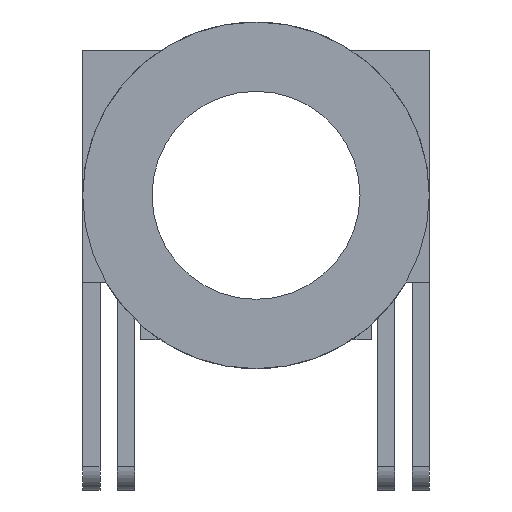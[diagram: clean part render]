
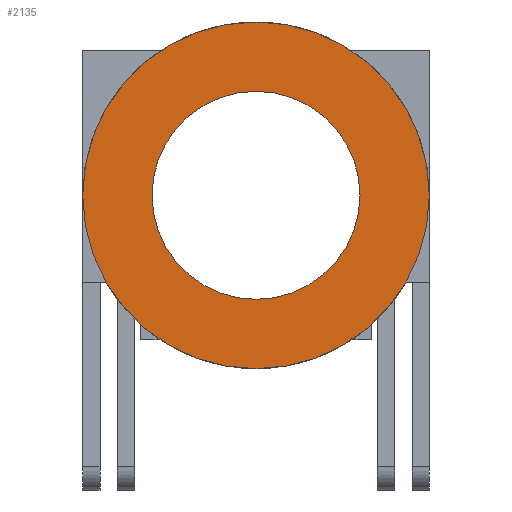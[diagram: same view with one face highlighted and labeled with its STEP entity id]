
A CAD part, left-side view. The second image highlights one B-rep face of the part: STEP entity #2135.
In plain terms, the highlighted planar face has unit normal (-1, 0, 0).
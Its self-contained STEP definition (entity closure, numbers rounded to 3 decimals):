
#328 = CYLINDRICAL_SURFACE('',#329,3.);
#329 = AXIS2_PLACEMENT_3D('',#330,#331,#332);
#330 = CARTESIAN_POINT('',(0.,0.,2.5));
#331 = DIRECTION('',(1.,0.,0.));
#332 = DIRECTION('',(0.,-1.,0.));
#886 = VERTEX_POINT('',#887);
#887 = CARTESIAN_POINT('',(-2.5,-3.,2.5));
#908 = EDGE_CURVE('',#886,#886,#909,.T.);
#909 = SURFACE_CURVE('',#910,(#915,#922),.PCURVE_S1.);
#910 = CIRCLE('',#911,3.);
#911 = AXIS2_PLACEMENT_3D('',#912,#913,#914);
#912 = CARTESIAN_POINT('',(-2.5,0.,2.5));
#913 = DIRECTION('',(-1.,0.,0.));
#914 = DIRECTION('',(0.,-1.,0.));
#915 = PCURVE('',#328,#916);
#916 = DEFINITIONAL_REPRESENTATION('',(#917),#921);
#917 = LINE('',#918,#919);
#918 = CARTESIAN_POINT('',(-0.,-2.5));
#919 = VECTOR('',#920,1.);
#920 = DIRECTION('',(-1.,0.));
#921 = ( GEOMETRIC_REPRESENTATION_CONTEXT(2) 
PARAMETRIC_REPRESENTATION_CONTEXT() REPRESENTATION_CONTEXT('2D SPACE',''
  ) );
#922 = PCURVE('',#923,#928);
#923 = PLANE('',#924);
#924 = AXIS2_PLACEMENT_3D('',#925,#926,#927);
#925 = CARTESIAN_POINT('',(-2.5,0.,2.5));
#926 = DIRECTION('',(-1.,0.,0.));
#927 = DIRECTION('',(0.,0.,-1.));
#928 = DEFINITIONAL_REPRESENTATION('',(#929),#933);
#929 = CIRCLE('',#930,3.);
#930 = AXIS2_PLACEMENT_2D('',#931,#932);
#931 = CARTESIAN_POINT('',(0.,0.));
#932 = DIRECTION('',(0.,1.));
#933 = ( GEOMETRIC_REPRESENTATION_CONTEXT(2) 
PARAMETRIC_REPRESENTATION_CONTEXT() REPRESENTATION_CONTEXT('2D SPACE',''
  ) );
#2135 = ADVANCED_FACE('',(#2136,#2139),#923,.T.);
#2136 = FACE_BOUND('',#2137,.T.);
#2137 = EDGE_LOOP('',(#2138));
#2138 = ORIENTED_EDGE('',*,*,#908,.T.);
#2139 = FACE_BOUND('',#2140,.T.);
#2140 = EDGE_LOOP('',(#2141));
#2141 = ORIENTED_EDGE('',*,*,#2142,.F.);
#2142 = EDGE_CURVE('',#2143,#2143,#2145,.T.);
#2143 = VERTEX_POINT('',#2144);
#2144 = CARTESIAN_POINT('',(-2.5,-1.8,2.5));
#2145 = SURFACE_CURVE('',#2146,(#2151,#2158),.PCURVE_S1.);
#2146 = CIRCLE('',#2147,1.8);
#2147 = AXIS2_PLACEMENT_3D('',#2148,#2149,#2150);
#2148 = CARTESIAN_POINT('',(-2.5,0.,2.5));
#2149 = DIRECTION('',(-1.,0.,0.));
#2150 = DIRECTION('',(0.,-1.,0.));
#2151 = PCURVE('',#923,#2152);
#2152 = DEFINITIONAL_REPRESENTATION('',(#2153),#2157);
#2153 = CIRCLE('',#2154,1.8);
#2154 = AXIS2_PLACEMENT_2D('',#2155,#2156);
#2155 = CARTESIAN_POINT('',(0.,0.));
#2156 = DIRECTION('',(0.,1.));
#2157 = ( GEOMETRIC_REPRESENTATION_CONTEXT(2) 
PARAMETRIC_REPRESENTATION_CONTEXT() REPRESENTATION_CONTEXT('2D SPACE',''
  ) );
#2158 = PCURVE('',#2159,#2164);
#2159 = CYLINDRICAL_SURFACE('',#2160,1.8);
#2160 = AXIS2_PLACEMENT_3D('',#2161,#2162,#2163);
#2161 = CARTESIAN_POINT('',(-2.5,0.,2.5));
#2162 = DIRECTION('',(-1.,0.,0.));
#2163 = DIRECTION('',(0.,-1.,0.));
#2164 = DEFINITIONAL_REPRESENTATION('',(#2165),#2169);
#2165 = LINE('',#2166,#2167);
#2166 = CARTESIAN_POINT('',(0.,0.));
#2167 = VECTOR('',#2168,1.);
#2168 = DIRECTION('',(1.,0.));
#2169 = ( GEOMETRIC_REPRESENTATION_CONTEXT(2) 
PARAMETRIC_REPRESENTATION_CONTEXT() REPRESENTATION_CONTEXT('2D SPACE',''
  ) );
